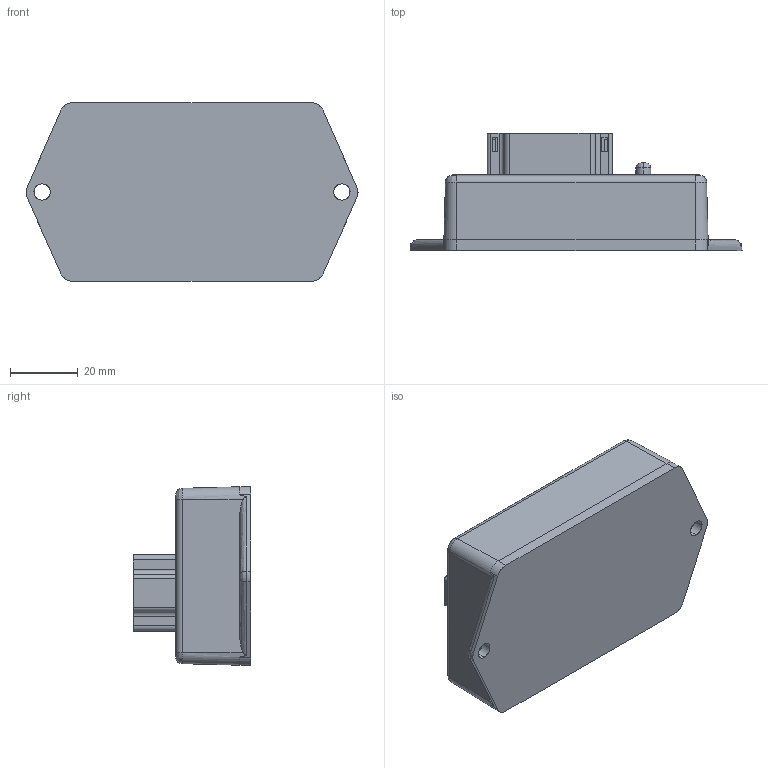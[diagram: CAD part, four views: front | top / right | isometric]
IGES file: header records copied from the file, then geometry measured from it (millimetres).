
Start section: SolidWorks IGES file using analytic representation for surfaces
Global section: file name: C:\Dans Design Files\HGC-2-25\HGC-2-25 Assy.IGS; native system: SolidWorks 2012; preprocessor: SolidWorks 2012; author: dphillips; date: 141101.073036; units: inch
Bounding box: 98.3 x 34.75 x 52.83 mm (x, y, z)
Surface area: 24357.6 mm2 (no closed solid volume)
Topology: 0 solids, 0 shells, 2887 faces, 27981 edges, 27981 vertices
Faces by surface type: bspline 2773, revolution 114
